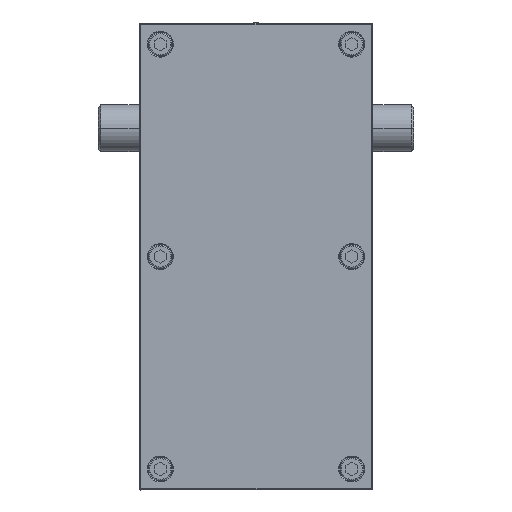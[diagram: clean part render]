
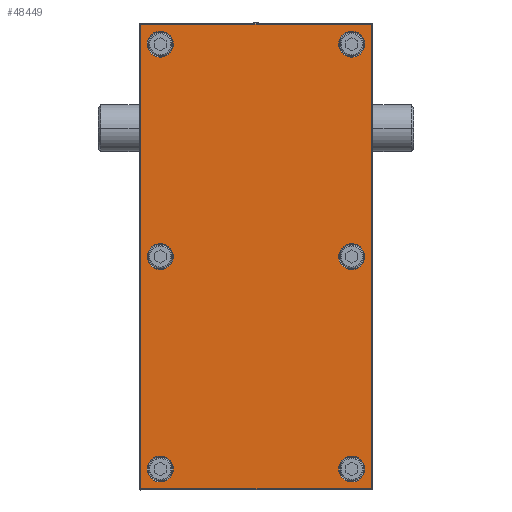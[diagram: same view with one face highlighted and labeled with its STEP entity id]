
A CAD part, front view. The second image highlights one B-rep face of the part: STEP entity #48449.
In plain terms, the highlighted planar face has unit normal (0, -1, 0).
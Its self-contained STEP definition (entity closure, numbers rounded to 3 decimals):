
#47066=CARTESIAN_POINT('',(99.,-7.,-49.));
#47067=DIRECTION('',(0.,-1.,0.));
#47068=DIRECTION('',(0.,0.,-1.));
#47069=AXIS2_PLACEMENT_3D('',#47066,#47067,#47068);
#47071=DIRECTION('',(1.,0.,0.));
#47072=VECTOR('',#47071,198.);
#47073=CARTESIAN_POINT('',(-99.,-7.,
-49.5));
#47074=LINE('',#47073,#47072);
#47075=CARTESIAN_POINT('',(-99.,-7.,-49.));
#47076=DIRECTION('',(0.,-1.,0.));
#47077=DIRECTION('',(-1.,0.,0.));
#47078=AXIS2_PLACEMENT_3D('',#47075,#47076,#47077);
#47080=DIRECTION('',(0.,0.,-1.));
#47081=VECTOR('',#47080,98.);
#47082=CARTESIAN_POINT('',(-99.5,-7.,
49.));
#47083=LINE('',#47082,#47081);
#47084=CARTESIAN_POINT('',(-99.,-7.,49.));
#47085=DIRECTION('',(0.,-1.,0.));
#47086=DIRECTION('',(0.,0.,1.));
#47087=AXIS2_PLACEMENT_3D('',#47084,#47085,#47086);
#47089=DIRECTION('',(-1.,0.,0.));
#47090=VECTOR('',#47089,198.);
#47091=CARTESIAN_POINT('',(99.,-7.,
49.5));
#47092=LINE('',#47091,#47090);
#47093=CARTESIAN_POINT('',(99.,-7.,49.));
#47094=DIRECTION('',(0.,-1.,0.));
#47095=DIRECTION('',(1.,0.,0.));
#47096=AXIS2_PLACEMENT_3D('',#47093,#47094,#47095);
#47098=DIRECTION('',(0.,0.,1.));
#47099=VECTOR('',#47098,98.);
#47100=CARTESIAN_POINT('',(99.5,-7.,
-49.));
#47101=LINE('',#47100,#47099);
#47102=CARTESIAN_POINT('',(-91.,-7.,-41.));
#47103=DIRECTION('',(0.,1.,0.));
#47104=DIRECTION('',(1.,0.,0.));
#47105=AXIS2_PLACEMENT_3D('',#47102,#47103,#47104);
#47107=CARTESIAN_POINT('',(-91.,-7.,-41.));
#47108=DIRECTION('',(0.,1.,0.));
#47109=DIRECTION('',(-1.,0.,0.));
#47110=AXIS2_PLACEMENT_3D('',#47107,#47108,#47109);
#47112=CARTESIAN_POINT('',(0.,-7.,-41.));
#47113=DIRECTION('',(0.,1.,0.));
#47114=DIRECTION('',(1.,0.,0.));
#47115=AXIS2_PLACEMENT_3D('',#47112,#47113,#47114);
#47117=CARTESIAN_POINT('',(0.,-7.,-41.));
#47118=DIRECTION('',(0.,1.,0.));
#47119=DIRECTION('',(-1.,0.,0.));
#47120=AXIS2_PLACEMENT_3D('',#47117,#47118,#47119);
#47122=CARTESIAN_POINT('',(91.,-7.,-41.));
#47123=DIRECTION('',(0.,1.,0.));
#47124=DIRECTION('',(1.,0.,0.));
#47125=AXIS2_PLACEMENT_3D('',#47122,#47123,#47124);
#47127=CARTESIAN_POINT('',(91.,-7.,-41.));
#47128=DIRECTION('',(0.,1.,0.));
#47129=DIRECTION('',(-1.,0.,0.));
#47130=AXIS2_PLACEMENT_3D('',#47127,#47128,#47129);
#47132=CARTESIAN_POINT('',(91.,-7.,41.));
#47133=DIRECTION('',(0.,1.,0.));
#47134=DIRECTION('',(1.,0.,0.));
#47135=AXIS2_PLACEMENT_3D('',#47132,#47133,#47134);
#47137=CARTESIAN_POINT('',(91.,-7.,41.));
#47138=DIRECTION('',(0.,1.,0.));
#47139=DIRECTION('',(-1.,0.,0.));
#47140=AXIS2_PLACEMENT_3D('',#47137,#47138,#47139);
#47142=CARTESIAN_POINT('',(0.,-7.,41.));
#47143=DIRECTION('',(0.,1.,0.));
#47144=DIRECTION('',(1.,0.,0.));
#47145=AXIS2_PLACEMENT_3D('',#47142,#47143,#47144);
#47147=CARTESIAN_POINT('',(0.,-7.,41.));
#47148=DIRECTION('',(0.,1.,0.));
#47149=DIRECTION('',(-1.,0.,0.));
#47150=AXIS2_PLACEMENT_3D('',#47147,#47148,#47149);
#47152=CARTESIAN_POINT('',(-91.,-7.,41.));
#47153=DIRECTION('',(0.,1.,0.));
#47154=DIRECTION('',(1.,0.,0.));
#47155=AXIS2_PLACEMENT_3D('',#47152,#47153,#47154);
#47157=CARTESIAN_POINT('',(-91.,-7.,41.));
#47158=DIRECTION('',(0.,1.,0.));
#47159=DIRECTION('',(-1.,0.,0.));
#47160=AXIS2_PLACEMENT_3D('',#47157,#47158,#47159);
#48190=CARTESIAN_POINT('',(99.,-7.,-49.5));
#48191=CARTESIAN_POINT('',(99.5,-7.,-49.));
#48192=VERTEX_POINT('',#48190);
#48193=VERTEX_POINT('',#48191);
#48198=CARTESIAN_POINT('',(99.5,-7.,
49.));
#48199=VERTEX_POINT('',#48198);
#48202=CARTESIAN_POINT('',(99.,-7.,49.5));
#48203=VERTEX_POINT('',#48202);
#48206=CARTESIAN_POINT('',(-99.,-7.,
49.5));
#48207=VERTEX_POINT('',#48206);
#48210=CARTESIAN_POINT('',(-99.5,-7.,49.));
#48211=VERTEX_POINT('',#48210);
#48214=CARTESIAN_POINT('',(-99.5,-7.,
-49.));
#48215=VERTEX_POINT('',#48214);
#48218=CARTESIAN_POINT('',(-99.,-7.,-49.5));
#48219=VERTEX_POINT('',#48218);
#48246=CARTESIAN_POINT('',(-85.45,-7.,-41.));
#48247=CARTESIAN_POINT('',(-96.55,-7.,-41.));
#48248=VERTEX_POINT('',#48246);
#48249=VERTEX_POINT('',#48247);
#48262=CARTESIAN_POINT('',(5.55,-7.,-41.));
#48263=CARTESIAN_POINT('',(-5.55,-7.,-41.));
#48264=VERTEX_POINT('',#48262);
#48265=VERTEX_POINT('',#48263);
#48286=CARTESIAN_POINT('',(96.55,-7.,-41.));
#48287=CARTESIAN_POINT('',(85.45,-7.,-41.));
#48288=VERTEX_POINT('',#48286);
#48289=VERTEX_POINT('',#48287);
#48302=CARTESIAN_POINT('',(96.55,-7.,41.));
#48303=CARTESIAN_POINT('',(85.45,-7.,41.));
#48304=VERTEX_POINT('',#48302);
#48305=VERTEX_POINT('',#48303);
#48310=CARTESIAN_POINT('',(5.55,-7.,41.));
#48311=CARTESIAN_POINT('',(-5.55,-7.,41.));
#48312=VERTEX_POINT('',#48310);
#48313=VERTEX_POINT('',#48311);
#48334=CARTESIAN_POINT('',(-85.45,-7.,41.));
#48335=CARTESIAN_POINT('',(-96.55,-7.,41.));
#48336=VERTEX_POINT('',#48334);
#48337=VERTEX_POINT('',#48335);
#48390=CARTESIAN_POINT('',(0.,-7.,0.));
#48391=DIRECTION('',(0.,1.,0.));
#48392=DIRECTION('',(1.,0.,0.));
#48393=AXIS2_PLACEMENT_3D('',#48390,#48391,#48392);
#48394=PLANE('',#48393);
#48396=ORIENTED_EDGE('',*,*,#48395,.F.);
#48398=ORIENTED_EDGE('',*,*,#48397,.F.);
#48400=ORIENTED_EDGE('',*,*,#48399,.F.);
#48402=ORIENTED_EDGE('',*,*,#48401,.F.);
#48404=ORIENTED_EDGE('',*,*,#48403,.F.);
#48406=ORIENTED_EDGE('',*,*,#48405,.F.);
#48408=ORIENTED_EDGE('',*,*,#48407,.F.);
#48410=ORIENTED_EDGE('',*,*,#48409,.F.);
#48411=EDGE_LOOP('',(#48396,#48398,#48400,#48402,#48404,#48406,#48408,#48410));
#48412=FACE_OUTER_BOUND('',#48411,.F.);
#48414=ORIENTED_EDGE('',*,*,#48413,.F.);
#48416=ORIENTED_EDGE('',*,*,#48415,.F.);
#48417=EDGE_LOOP('',(#48414,#48416));
#48418=FACE_BOUND('',#48417,.F.);
#48420=ORIENTED_EDGE('',*,*,#48419,.F.);
#48422=ORIENTED_EDGE('',*,*,#48421,.F.);
#48423=EDGE_LOOP('',(#48420,#48422));
#48424=FACE_BOUND('',#48423,.F.);
#48426=ORIENTED_EDGE('',*,*,#48425,.F.);
#48428=ORIENTED_EDGE('',*,*,#48427,.F.);
#48429=EDGE_LOOP('',(#48426,#48428));
#48430=FACE_BOUND('',#48429,.F.);
#48432=ORIENTED_EDGE('',*,*,#48431,.F.);
#48434=ORIENTED_EDGE('',*,*,#48433,.F.);
#48435=EDGE_LOOP('',(#48432,#48434));
#48436=FACE_BOUND('',#48435,.F.);
#48438=ORIENTED_EDGE('',*,*,#48437,.F.);
#48440=ORIENTED_EDGE('',*,*,#48439,.F.);
#48441=EDGE_LOOP('',(#48438,#48440));
#48442=FACE_BOUND('',#48441,.F.);
#48444=ORIENTED_EDGE('',*,*,#48443,.F.);
#48446=ORIENTED_EDGE('',*,*,#48445,.F.);
#48447=EDGE_LOOP('',(#48444,#48446));
#48448=FACE_BOUND('',#48447,.F.);
#48449=ADVANCED_FACE('',(#48412,#48418,#48424,#48430,#48436,#48442,#48448),
#48394,.F.);
#47070=CIRCLE('',#47069,0.5);
#47079=CIRCLE('',#47078,0.5);
#47088=CIRCLE('',#47087,0.5);
#47097=CIRCLE('',#47096,0.5);
#47106=CIRCLE('',#47105,5.55);
#47111=CIRCLE('',#47110,5.55);
#47116=CIRCLE('',#47115,5.55);
#47121=CIRCLE('',#47120,5.55);
#47126=CIRCLE('',#47125,5.55);
#47131=CIRCLE('',#47130,5.55);
#47136=CIRCLE('',#47135,5.55);
#47141=CIRCLE('',#47140,5.55);
#47146=CIRCLE('',#47145,5.55);
#47151=CIRCLE('',#47150,5.55);
#47156=CIRCLE('',#47155,5.55);
#47161=CIRCLE('',#47160,5.55);
#48395=EDGE_CURVE('',#48192,#48193,#47070,.T.);
#48397=EDGE_CURVE('',#48219,#48192,#47074,.T.);
#48399=EDGE_CURVE('',#48215,#48219,#47079,.T.);
#48401=EDGE_CURVE('',#48211,#48215,#47083,.T.);
#48403=EDGE_CURVE('',#48207,#48211,#47088,.T.);
#48405=EDGE_CURVE('',#48203,#48207,#47092,.T.);
#48407=EDGE_CURVE('',#48199,#48203,#47097,.T.);
#48409=EDGE_CURVE('',#48193,#48199,#47101,.T.);
#48413=EDGE_CURVE('',#48248,#48249,#47106,.T.);
#48415=EDGE_CURVE('',#48249,#48248,#47111,.T.);
#48419=EDGE_CURVE('',#48264,#48265,#47116,.T.);
#48421=EDGE_CURVE('',#48265,#48264,#47121,.T.);
#48425=EDGE_CURVE('',#48288,#48289,#47126,.T.);
#48427=EDGE_CURVE('',#48289,#48288,#47131,.T.);
#48431=EDGE_CURVE('',#48304,#48305,#47136,.T.);
#48433=EDGE_CURVE('',#48305,#48304,#47141,.T.);
#48437=EDGE_CURVE('',#48312,#48313,#47146,.T.);
#48439=EDGE_CURVE('',#48313,#48312,#47151,.T.);
#48443=EDGE_CURVE('',#48336,#48337,#47156,.T.);
#48445=EDGE_CURVE('',#48337,#48336,#47161,.T.);
